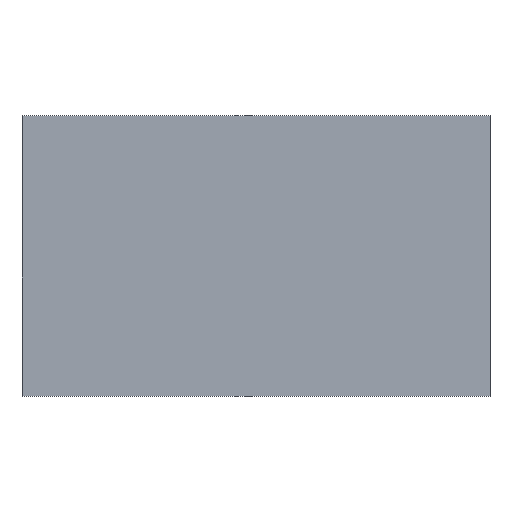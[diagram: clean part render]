
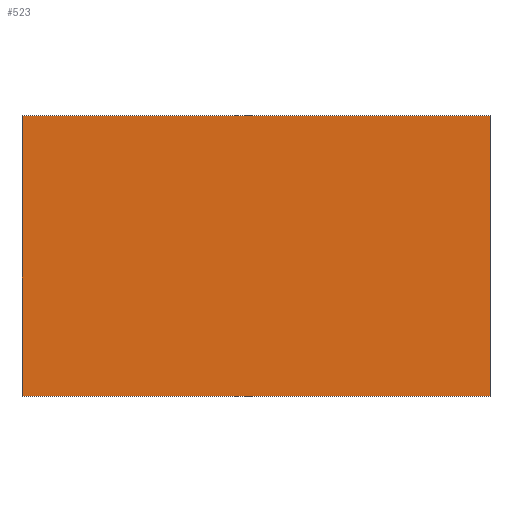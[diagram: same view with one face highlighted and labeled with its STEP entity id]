
A CAD part, top view. The second image highlights one B-rep face of the part: STEP entity #523.
In plain terms, the highlighted planar face has unit normal (0, 0, 1).
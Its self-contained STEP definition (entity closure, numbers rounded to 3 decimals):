
#82=FACE_OUTER_BOUND('',#115,.T.);
#115=EDGE_LOOP('',(#436,#437,#438,#439));
#160=LINE('',#852,#206);
#163=LINE('',#858,#209);
#166=LINE('',#864,#212);
#169=LINE('',#868,#215);
#206=VECTOR('',#714,10.);
#209=VECTOR('',#719,10.);
#212=VECTOR('',#724,10.);
#215=VECTOR('',#729,10.);
#254=VERTEX_POINT('',#849);
#255=VERTEX_POINT('',#851);
#257=VERTEX_POINT('',#857);
#259=VERTEX_POINT('',#863);
#316=EDGE_CURVE('',#255,#254,#160,.T.);
#319=EDGE_CURVE('',#257,#255,#163,.T.);
#322=EDGE_CURVE('',#259,#257,#166,.T.);
#325=EDGE_CURVE('',#254,#259,#169,.T.);
#436=ORIENTED_EDGE('',*,*,#325,.T.);
#437=ORIENTED_EDGE('',*,*,#322,.T.);
#438=ORIENTED_EDGE('',*,*,#319,.T.);
#439=ORIENTED_EDGE('',*,*,#316,.T.);
#472=PLANE('',#592);
#523=ADVANCED_FACE('',(#82),#472,.T.);
#592=AXIS2_PLACEMENT_3D('',#869,#730,#731);
#714=DIRECTION('',(1.,0.,0.));
#719=DIRECTION('',(0.,-1.,0.));
#724=DIRECTION('',(-1.,0.,0.));
#729=DIRECTION('',(0.,1.,0.));
#730=DIRECTION('center_axis',(0.,0.,1.));
#731=DIRECTION('ref_axis',(1.,0.,0.));
#849=CARTESIAN_POINT('',(400.,-240.,120.));
#851=CARTESIAN_POINT('',(-400.,-240.,120.));
#852=CARTESIAN_POINT('',(-400.,-240.,120.));
#857=CARTESIAN_POINT('',(-400.,240.,120.));
#858=CARTESIAN_POINT('',(-400.,240.,120.));
#863=CARTESIAN_POINT('',(400.,240.,120.));
#864=CARTESIAN_POINT('',(400.,240.,120.));
#868=CARTESIAN_POINT('',(400.,-240.,120.));
#869=CARTESIAN_POINT('Origin',(0.,0.,120.));
